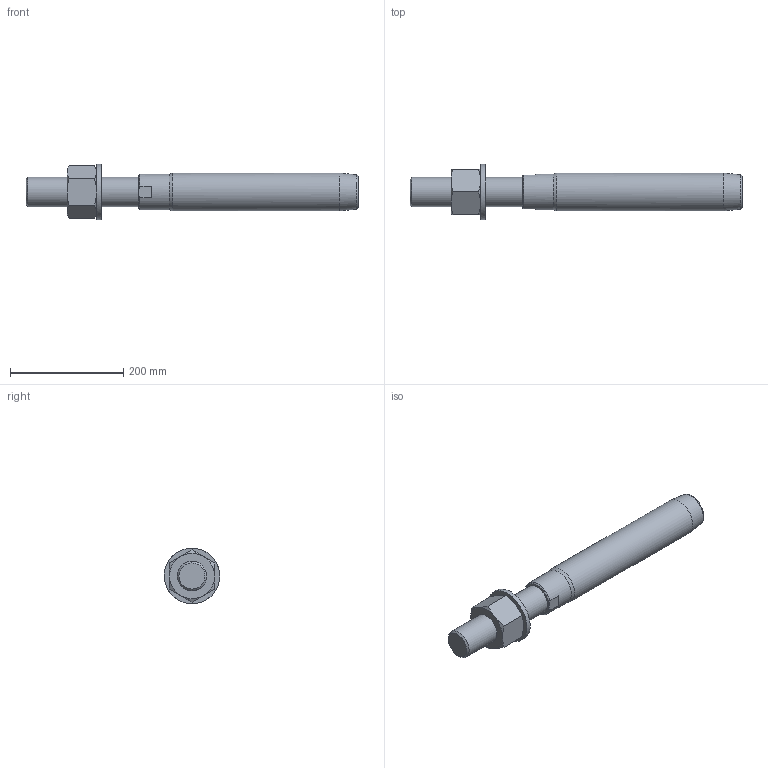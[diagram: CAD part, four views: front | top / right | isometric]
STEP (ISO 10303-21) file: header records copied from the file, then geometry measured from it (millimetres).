
FILE_DESCRIPTION(/* description */ (''),/* implementation_level */ '2;1');
FILE_NAME(/* name */ 'FLT 36_42CrMo4',/* time_stamp */ '2023-05-23T15:57:54+02:00',/* author */ (''),/* organization */ (''),/* preprocessor_version */ 'ST-DEVELOPER v16.5',/* originating_system */ 'Rhino 7.22',/* authorisation */ '');
FILE_SCHEMA (('CONFIG_CONTROL_DESIGN'));
Length unit declared in the file: millimetre
Products named in the file (1): Document
Bounding box: 587 x 97.97 x 97.97 mm (x, y, z)
Volume: 1980643.1 mm3; surface area: 161702.5 mm2
Topology: 3 solids, 3 shells, 42 faces, 103 edges, 68 vertices
Faces by surface type: bspline 19, plane 17, cylinder 6
Full cylindrical faces by diameter (mm): 48.752 x1, 52 x1, 54 x1, 63.5 x1, 66.8 x1, 98 x1
Entity records: 1563 total; most frequent: CARTESIAN_POINT 861, ORIENTED_EDGE 206, EDGE_CURVE 103, VERTEX_POINT 68, EDGE_LOOP 47, ADVANCED_FACE 42, FACE_OUTER_BOUND 42, DIRECTION 27
